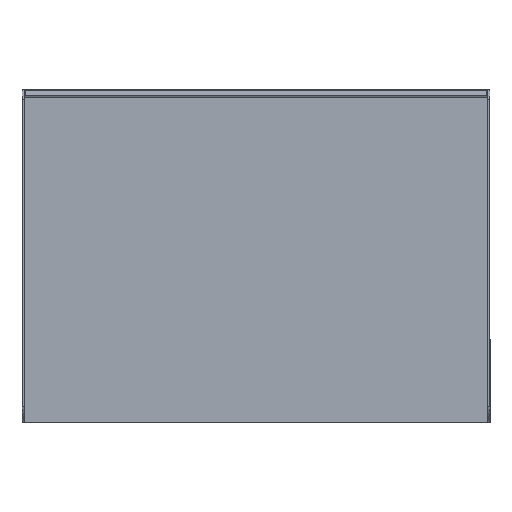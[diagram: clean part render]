
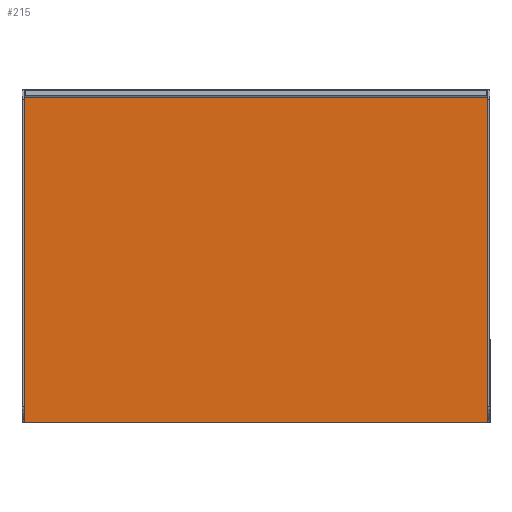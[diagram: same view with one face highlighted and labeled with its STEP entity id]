
A CAD part, front view. The second image highlights one B-rep face of the part: STEP entity #215.
In plain terms, the highlighted planar face has unit normal (0, -1, 0).
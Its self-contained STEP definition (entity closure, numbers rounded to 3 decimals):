
#6 = EDGE_CURVE ( 'NONE', #1639, #223, #898, .T. ) ;
#28 = ORIENTED_EDGE ( 'NONE', *, *, #827, .F. ) ;
#35 = CARTESIAN_POINT ( 'NONE',  ( -247., 0., 347. ) ) ;
#159 = DIRECTION ( 'NONE',  ( 0., 0., -1. ) ) ;
#214 = CARTESIAN_POINT ( 'NONE',  ( 0., 0., 0. ) ) ;
#215 = ADVANCED_FACE ( 'NONE', ( #1541 ), #1371, .T. ) ;
#223 = VERTEX_POINT ( 'NONE', #1396 ) ;
#256 = AXIS2_PLACEMENT_3D ( 'NONE', #214, #747, #736 ) ;
#278 = CARTESIAN_POINT ( 'NONE',  ( 247., 0., 347. ) ) ;
#283 = EDGE_CURVE ( 'NONE', #865, #1514, #1081, .T. ) ;
#359 = DIRECTION ( 'NONE',  ( 1., 0., 0. ) ) ;
#402 = CARTESIAN_POINT ( 'NONE',  ( -247., 0., 347. ) ) ;
#464 = CARTESIAN_POINT ( 'NONE',  ( -247., 0., -347. ) ) ;
#624 = VECTOR ( 'NONE', #1348, 1000. ) ;
#640 = CARTESIAN_POINT ( 'NONE',  ( 247., 0., 347. ) ) ;
#736 = DIRECTION ( 'NONE',  ( 0., 0., -1. ) ) ;
#747 = DIRECTION ( 'NONE',  ( 0., -1., 0. ) ) ;
#827 = EDGE_CURVE ( 'NONE', #223, #865, #1154, .T. ) ;
#845 = EDGE_CURVE ( 'NONE', #1514, #1639, #1383, .T. ) ;
#865 = VERTEX_POINT ( 'NONE', #1553 ) ;
#898 = LINE ( 'NONE', #278, #1094 ) ;
#1075 = ORIENTED_EDGE ( 'NONE', *, *, #6, .F. ) ;
#1081 = LINE ( 'NONE', #35, #624 ) ;
#1094 = VECTOR ( 'NONE', #159, 1000. ) ;
#1129 = VECTOR ( 'NONE', #1135, 1000. ) ;
#1135 = DIRECTION ( 'NONE',  ( -1., 0., 0. ) ) ;
#1154 = LINE ( 'NONE', #464, #1129 ) ;
#1191 = EDGE_LOOP ( 'NONE', ( #1075, #1294, #1459, #28 ) ) ;
#1285 = CARTESIAN_POINT ( 'NONE',  ( -247., 0., 347. ) ) ;
#1294 = ORIENTED_EDGE ( 'NONE', *, *, #845, .F. ) ;
#1348 = DIRECTION ( 'NONE',  ( 0., 0., 1. ) ) ;
#1371 = PLANE ( 'NONE',  #256 ) ;
#1383 = LINE ( 'NONE', #1285, #1424 ) ;
#1396 = CARTESIAN_POINT ( 'NONE',  ( 247., 0., -347. ) ) ;
#1424 = VECTOR ( 'NONE', #359, 1000. ) ;
#1459 = ORIENTED_EDGE ( 'NONE', *, *, #283, .F. ) ;
#1514 = VERTEX_POINT ( 'NONE', #402 ) ;
#1541 = FACE_OUTER_BOUND ( 'NONE', #1191, .T. ) ;
#1553 = CARTESIAN_POINT ( 'NONE',  ( -247., 0., -347. ) ) ;
#1639 = VERTEX_POINT ( 'NONE', #640 ) ;
